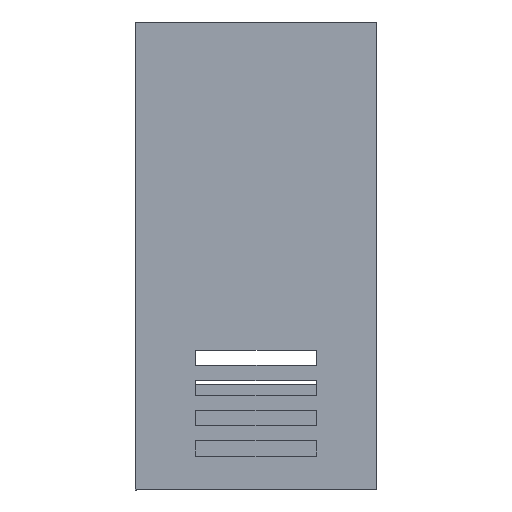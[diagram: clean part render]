
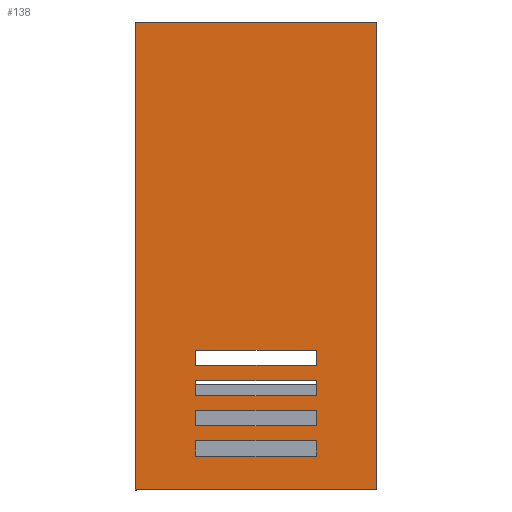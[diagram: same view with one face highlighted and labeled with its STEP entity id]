
A CAD part, left-side view. The second image highlights one B-rep face of the part: STEP entity #138.
In plain terms, the highlighted planar face has unit normal (-1, 0, 0).
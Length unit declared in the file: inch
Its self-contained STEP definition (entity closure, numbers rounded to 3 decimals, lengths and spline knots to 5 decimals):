
#138 = ADVANCED_FACE( '', ( #298, #299, #300, #301, #302 ), #303, .F. );
#298 = FACE_OUTER_BOUND( '', #474, .T. );
#299 = FACE_BOUND( '', #475, .T. );
#300 = FACE_BOUND( '', #476, .T. );
#301 = FACE_BOUND( '', #477, .T. );
#302 = FACE_BOUND( '', #478, .T. );
#303 = PLANE( '', #479 );
#474 = EDGE_LOOP( '', ( #1029, #1030, #1031, #1032 ) );
#475 = EDGE_LOOP( '', ( #1033, #1034, #1035, #1036 ) );
#476 = EDGE_LOOP( '', ( #1037, #1038, #1039, #1040 ) );
#477 = EDGE_LOOP( '', ( #1041, #1042, #1043, #1044 ) );
#478 = EDGE_LOOP( '', ( #1045, #1046, #1047, #1048 ) );
#479 = AXIS2_PLACEMENT_3D( '', #1049, #1050, #1051 );
#1029 = ORIENTED_EDGE( '', *, *, #1312, .T. );
#1030 = ORIENTED_EDGE( '', *, *, #1313, .T. );
#1031 = ORIENTED_EDGE( '', *, *, #1260, .T. );
#1032 = ORIENTED_EDGE( '', *, *, #1208, .T. );
#1033 = ORIENTED_EDGE( '', *, *, #1306, .T. );
#1034 = ORIENTED_EDGE( '', *, *, #1303, .T. );
#1035 = ORIENTED_EDGE( '', *, *, #1300, .T. );
#1036 = ORIENTED_EDGE( '', *, *, #1309, .T. );
#1037 = ORIENTED_EDGE( '', *, *, #1294, .T. );
#1038 = ORIENTED_EDGE( '', *, *, #1291, .T. );
#1039 = ORIENTED_EDGE( '', *, *, #1288, .T. );
#1040 = ORIENTED_EDGE( '', *, *, #1297, .T. );
#1041 = ORIENTED_EDGE( '', *, *, #1282, .T. );
#1042 = ORIENTED_EDGE( '', *, *, #1279, .T. );
#1043 = ORIENTED_EDGE( '', *, *, #1276, .T. );
#1044 = ORIENTED_EDGE( '', *, *, #1285, .T. );
#1045 = ORIENTED_EDGE( '', *, *, #1270, .T. );
#1046 = ORIENTED_EDGE( '', *, *, #1267, .T. );
#1047 = ORIENTED_EDGE( '', *, *, #1264, .T. );
#1048 = ORIENTED_EDGE( '', *, *, #1273, .T. );
#1049 = CARTESIAN_POINT( '', ( -27.45374, 22.20045, 17.00329 ) );
#1050 = DIRECTION( '', ( 1., 0., 0. ) );
#1051 = DIRECTION( '', ( 0., 1., 0. ) );
#1208 = EDGE_CURVE( '', #1479, #1477, #1480, .T. );
#1260 = EDGE_CURVE( '', #1557, #1479, #1558, .T. );
#1264 = EDGE_CURVE( '', #1565, #1563, #1566, .T. );
#1267 = EDGE_CURVE( '', #1570, #1565, #1571, .T. );
#1270 = EDGE_CURVE( '', #1575, #1570, #1576, .T. );
#1273 = EDGE_CURVE( '', #1563, #1575, #1579, .T. );
#1276 = EDGE_CURVE( '', #1585, #1583, #1586, .T. );
#1279 = EDGE_CURVE( '', #1590, #1585, #1591, .T. );
#1282 = EDGE_CURVE( '', #1595, #1590, #1596, .T. );
#1285 = EDGE_CURVE( '', #1583, #1595, #1599, .T. );
#1288 = EDGE_CURVE( '', #1605, #1603, #1606, .T. );
#1291 = EDGE_CURVE( '', #1610, #1605, #1611, .T. );
#1294 = EDGE_CURVE( '', #1615, #1610, #1616, .T. );
#1297 = EDGE_CURVE( '', #1603, #1615, #1619, .T. );
#1300 = EDGE_CURVE( '', #1625, #1623, #1626, .T. );
#1303 = EDGE_CURVE( '', #1630, #1625, #1631, .T. );
#1306 = EDGE_CURVE( '', #1635, #1630, #1636, .T. );
#1309 = EDGE_CURVE( '', #1623, #1635, #1639, .T. );
#1312 = EDGE_CURVE( '', #1477, #1643, #1644, .T. );
#1313 = EDGE_CURVE( '', #1643, #1557, #1645, .T. );
#1477 = VERTEX_POINT( '', #1884 );
#1479 = VERTEX_POINT( '', #1887 );
#1480 = LINE( '', #1888, #1889 );
#1557 = VERTEX_POINT( '', #2017 );
#1558 = LINE( '', #2018, #2019 );
#1563 = VERTEX_POINT( '', #2026 );
#1565 = VERTEX_POINT( '', #2029 );
#1566 = LINE( '', #2030, #2031 );
#1570 = VERTEX_POINT( '', #2037 );
#1571 = LINE( '', #2038, #2039 );
#1575 = VERTEX_POINT( '', #2045 );
#1576 = LINE( '', #2046, #2047 );
#1579 = LINE( '', #2052, #2053 );
#1583 = VERTEX_POINT( '', #2058 );
#1585 = VERTEX_POINT( '', #2061 );
#1586 = LINE( '', #2062, #2063 );
#1590 = VERTEX_POINT( '', #2069 );
#1591 = LINE( '', #2070, #2071 );
#1595 = VERTEX_POINT( '', #2077 );
#1596 = LINE( '', #2078, #2079 );
#1599 = LINE( '', #2084, #2085 );
#1603 = VERTEX_POINT( '', #2090 );
#1605 = VERTEX_POINT( '', #2093 );
#1606 = LINE( '', #2094, #2095 );
#1610 = VERTEX_POINT( '', #2101 );
#1611 = LINE( '', #2102, #2103 );
#1615 = VERTEX_POINT( '', #2109 );
#1616 = LINE( '', #2110, #2111 );
#1619 = LINE( '', #2116, #2117 );
#1623 = VERTEX_POINT( '', #2122 );
#1625 = VERTEX_POINT( '', #2125 );
#1626 = LINE( '', #2126, #2127 );
#1630 = VERTEX_POINT( '', #2133 );
#1631 = LINE( '', #2134, #2135 );
#1635 = VERTEX_POINT( '', #2141 );
#1636 = LINE( '', #2142, #2143 );
#1639 = LINE( '', #2148, #2149 );
#1643 = VERTEX_POINT( '', #2155 );
#1644 = LINE( '', #2156, #2157 );
#1645 = LINE( '', #2158, #2159 );
#1884 = CARTESIAN_POINT( '', ( -27.45374, 18.20045, 9.25329 ) );
#1887 = CARTESIAN_POINT( '', ( -27.45374, 26.20045, 9.25329 ) );
#1888 = CARTESIAN_POINT( '', ( -27.45374, 26.20045, 9.25329 ) );
#1889 = VECTOR( '', #2312, 0.3937 );
#2017 = CARTESIAN_POINT( '', ( -27.45374, 26.20045, 24.75329 ) );
#2018 = CARTESIAN_POINT( '', ( -27.45374, 26.20045, 24.75329 ) );
#2019 = VECTOR( '', #2364, 0.3937 );
#2026 = CARTESIAN_POINT( '', ( -27.45374, 24.20045, 11.87829 ) );
#2029 = CARTESIAN_POINT( '', ( -27.45374, 24.20045, 11.37829 ) );
#2030 = CARTESIAN_POINT( '', ( -27.45374, 24.20045, 14.44079 ) );
#2031 = VECTOR( '', #2368, 0.3937 );
#2037 = CARTESIAN_POINT( '', ( -27.45374, 20.20045, 11.37829 ) );
#2038 = CARTESIAN_POINT( '', ( -27.45374, 23.20045, 11.37829 ) );
#2039 = VECTOR( '', #2371, 0.3937 );
#2045 = CARTESIAN_POINT( '', ( -27.45374, 20.20045, 11.87829 ) );
#2046 = CARTESIAN_POINT( '', ( -27.45374, 20.20045, 14.19079 ) );
#2047 = VECTOR( '', #2374, 0.3937 );
#2052 = CARTESIAN_POINT( '', ( -27.45374, 21.20045, 11.87829 ) );
#2053 = VECTOR( '', #2377, 0.3937 );
#2058 = CARTESIAN_POINT( '', ( -27.45374, 24.20045, 12.87829 ) );
#2061 = CARTESIAN_POINT( '', ( -27.45374, 24.20045, 12.37829 ) );
#2062 = CARTESIAN_POINT( '', ( -27.45374, 24.20045, 14.94079 ) );
#2063 = VECTOR( '', #2380, 0.3937 );
#2069 = CARTESIAN_POINT( '', ( -27.45374, 20.20045, 12.37829 ) );
#2070 = CARTESIAN_POINT( '', ( -27.45374, 23.20045, 12.37829 ) );
#2071 = VECTOR( '', #2383, 0.3937 );
#2077 = CARTESIAN_POINT( '', ( -27.45374, 20.20045, 12.87829 ) );
#2078 = CARTESIAN_POINT( '', ( -27.45374, 20.20045, 14.69079 ) );
#2079 = VECTOR( '', #2386, 0.3937 );
#2084 = CARTESIAN_POINT( '', ( -27.45374, 21.20045, 12.87829 ) );
#2085 = VECTOR( '', #2389, 0.3937 );
#2090 = CARTESIAN_POINT( '', ( -27.45374, 24.20045, 10.37829 ) );
#2093 = CARTESIAN_POINT( '', ( -27.45374, 20.20045, 10.37829 ) );
#2094 = CARTESIAN_POINT( '', ( -27.45374, 23.20045, 10.37829 ) );
#2095 = VECTOR( '', #2392, 0.3937 );
#2101 = CARTESIAN_POINT( '', ( -27.45374, 20.20045, 10.87829 ) );
#2102 = CARTESIAN_POINT( '', ( -27.45374, 20.20045, 13.69079 ) );
#2103 = VECTOR( '', #2395, 0.3937 );
#2109 = CARTESIAN_POINT( '', ( -27.45374, 24.20045, 10.87829 ) );
#2110 = CARTESIAN_POINT( '', ( -27.45374, 21.20045, 10.87829 ) );
#2111 = VECTOR( '', #2398, 0.3937 );
#2116 = CARTESIAN_POINT( '', ( -27.45374, 24.20045, 13.94079 ) );
#2117 = VECTOR( '', #2401, 0.3937 );
#2122 = CARTESIAN_POINT( '', ( -27.45374, 24.20045, 13.87829 ) );
#2125 = CARTESIAN_POINT( '', ( -27.45374, 24.20045, 13.37829 ) );
#2126 = CARTESIAN_POINT( '', ( -27.45374, 24.20045, 15.44079 ) );
#2127 = VECTOR( '', #2404, 0.3937 );
#2133 = CARTESIAN_POINT( '', ( -27.45374, 20.20045, 13.37829 ) );
#2134 = CARTESIAN_POINT( '', ( -27.45374, 23.20045, 13.37829 ) );
#2135 = VECTOR( '', #2407, 0.3937 );
#2141 = CARTESIAN_POINT( '', ( -27.45374, 20.20045, 13.87829 ) );
#2142 = CARTESIAN_POINT( '', ( -27.45374, 20.20045, 15.19079 ) );
#2143 = VECTOR( '', #2410, 0.3937 );
#2148 = CARTESIAN_POINT( '', ( -27.45374, 21.20045, 13.87829 ) );
#2149 = VECTOR( '', #2413, 0.3937 );
#2155 = CARTESIAN_POINT( '', ( -27.45374, 18.20045, 24.75329 ) );
#2156 = CARTESIAN_POINT( '', ( -27.45374, 18.20045, 9.25329 ) );
#2157 = VECTOR( '', #2416, 0.3937 );
#2158 = CARTESIAN_POINT( '', ( -27.45374, 18.20045, 24.75329 ) );
#2159 = VECTOR( '', #2417, 0.3937 );
#2312 = DIRECTION( '', ( 0., -1., 0. ) );
#2364 = DIRECTION( '', ( 0., 0., -1. ) );
#2368 = DIRECTION( '', ( 0., 0., 1. ) );
#2371 = DIRECTION( '', ( 0., 1., 0. ) );
#2374 = DIRECTION( '', ( 0., 0., -1. ) );
#2377 = DIRECTION( '', ( 0., -1., 0. ) );
#2380 = DIRECTION( '', ( 0., 0., 1. ) );
#2383 = DIRECTION( '', ( 0., 1., 0. ) );
#2386 = DIRECTION( '', ( 0., 0., -1. ) );
#2389 = DIRECTION( '', ( 0., -1., 0. ) );
#2392 = DIRECTION( '', ( 0., 1., 0. ) );
#2395 = DIRECTION( '', ( 0., 0., -1. ) );
#2398 = DIRECTION( '', ( 0., -1., 0. ) );
#2401 = DIRECTION( '', ( 0., 0., 1. ) );
#2404 = DIRECTION( '', ( 0., 0., 1. ) );
#2407 = DIRECTION( '', ( 0., 1., 0. ) );
#2410 = DIRECTION( '', ( 0., 0., -1. ) );
#2413 = DIRECTION( '', ( 0., -1., 0. ) );
#2416 = DIRECTION( '', ( 0., 0., 1. ) );
#2417 = DIRECTION( '', ( 0., 1., 0. ) );
